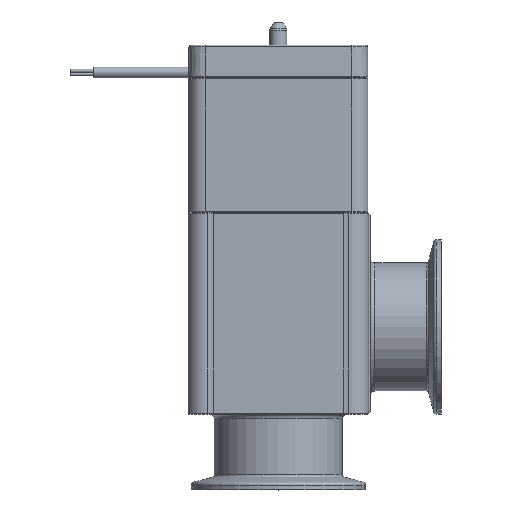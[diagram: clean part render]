
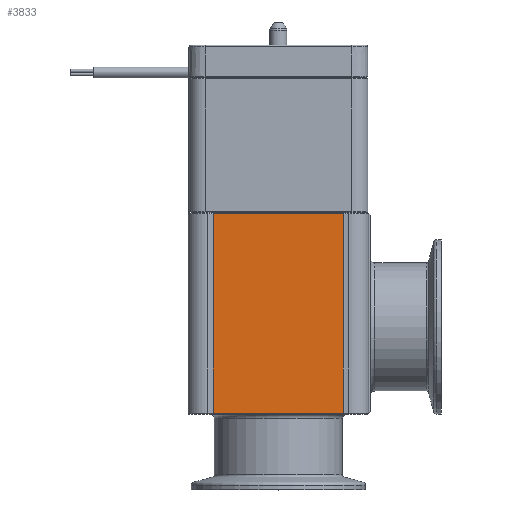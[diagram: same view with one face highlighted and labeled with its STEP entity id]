
A CAD part, top view. The second image highlights one B-rep face of the part: STEP entity #3833.
In plain terms, the highlighted planar face has unit normal (0, 0, 1).
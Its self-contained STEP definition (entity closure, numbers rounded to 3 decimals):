
#2214=LINE('',#16153,#2871);
#2215=LINE('',#16157,#2872);
#2216=LINE('',#16159,#2873);
#2217=LINE('',#16161,#2874);
#2871=VECTOR('',#12607,1.);
#2872=VECTOR('',#12612,1.);
#2873=VECTOR('',#12613,1.);
#2874=VECTOR('',#12614,1.);
#3833=ADVANCED_FACE('',(#4522),#4189,.T.);
#4189=PLANE('',#10474);
#4522=FACE_OUTER_BOUND('',#5159,.T.);
#5159=EDGE_LOOP('',(#7239,#7240,#7241,#7242));
#7239=ORIENTED_EDGE('',*,*,#9304,.F.);
#7240=ORIENTED_EDGE('',*,*,#9306,.T.);
#7241=ORIENTED_EDGE('',*,*,#9307,.T.);
#7242=ORIENTED_EDGE('',*,*,#9308,.F.);
#8223=VERTEX_POINT('',#16152);
#8224=VERTEX_POINT('',#16154);
#8225=VERTEX_POINT('',#16158);
#8226=VERTEX_POINT('',#16160);
#9304=EDGE_CURVE('',#8223,#8224,#2214,.T.);
#9306=EDGE_CURVE('',#8223,#8225,#2215,.T.);
#9307=EDGE_CURVE('',#8225,#8226,#2216,.T.);
#9308=EDGE_CURVE('',#8224,#8226,#2217,.T.);
#10474=AXIS2_PLACEMENT_3D('',#16162,#12615,#12616);
#12607=DIRECTION('',(0.,-1.,0.));
#12612=DIRECTION('',(-1.,0.,0.));
#12613=DIRECTION('',(0.,-1.,0.));
#12614=DIRECTION('',(-1.,0.,0.));
#12615=DIRECTION('',(0.,0.,1.));
#12616=DIRECTION('',(1.,0.,0.));
#16152=CARTESIAN_POINT('',(27.938,86.1,38.5));
#16153=CARTESIAN_POINT('',(27.938,90.,38.5));
#16154=CARTESIAN_POINT('',(27.938,0.4,38.5));
#16157=CARTESIAN_POINT('',(27.938,86.1,38.5));
#16158=CARTESIAN_POINT('',(-27.938,86.1,38.5));
#16159=CARTESIAN_POINT('',(-27.938,90.,38.5));
#16160=CARTESIAN_POINT('',(-27.938,0.4,38.5));
#16161=CARTESIAN_POINT('',(27.938,0.4,38.5));
#16162=CARTESIAN_POINT('',(27.938,90.,38.5));
